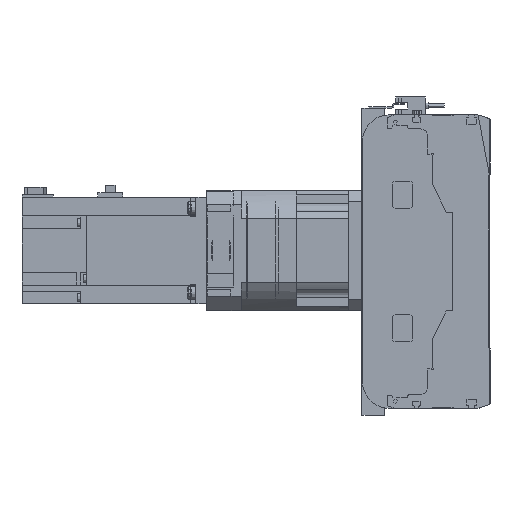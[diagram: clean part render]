
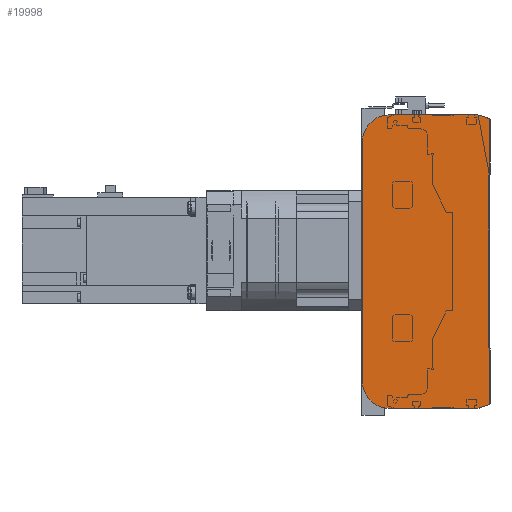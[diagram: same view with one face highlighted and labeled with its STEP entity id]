
A CAD part, left-side view. The second image highlights one B-rep face of the part: STEP entity #19998.
In plain terms, the highlighted planar face has unit normal (-1, 0, 0).
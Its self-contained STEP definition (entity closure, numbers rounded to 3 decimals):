
#1152=CIRCLE('',#21779,20.);
#1153=CIRCLE('',#21782,20.);
#4890=ORIENTED_EDGE('',*,*,#8648,.F.);
#4891=ORIENTED_EDGE('',*,*,#8690,.F.);
#4892=ORIENTED_EDGE('',*,*,#8688,.F.);
#4893=ORIENTED_EDGE('',*,*,#8686,.F.);
#4894=ORIENTED_EDGE('',*,*,#8675,.F.);
#4895=ORIENTED_EDGE('',*,*,#8666,.F.);
#4896=ORIENTED_EDGE('',*,*,#8662,.F.);
#4897=ORIENTED_EDGE('',*,*,#8659,.F.);
#8648=EDGE_CURVE('',#10871,#10872,#12667,.T.);
#8659=EDGE_CURVE('',#10872,#10879,#12678,.T.);
#8662=EDGE_CURVE('',#10879,#10881,#12681,.T.);
#8666=EDGE_CURVE('',#10881,#10882,#12685,.T.);
#8675=EDGE_CURVE('',#10882,#10888,#12694,.T.);
#8686=EDGE_CURVE('',#10888,#10895,#1152,.T.);
#8688=EDGE_CURVE('',#10895,#10896,#12706,.T.);
#8690=EDGE_CURVE('',#10896,#10871,#1153,.T.);
#10871=VERTEX_POINT('',#33225);
#10872=VERTEX_POINT('',#33227);
#10879=VERTEX_POINT('',#33246);
#10881=VERTEX_POINT('',#33252);
#10882=VERTEX_POINT('',#33258);
#10888=VERTEX_POINT('',#33274);
#10895=VERTEX_POINT('',#33293);
#10896=VERTEX_POINT('',#33297);
#12667=LINE('',#33226,#14266);
#12678=LINE('',#33245,#14277);
#12681=LINE('',#33251,#14280);
#12685=LINE('',#33257,#14284);
#12694=LINE('',#33273,#14293);
#12706=LINE('',#33296,#14305);
#14266=VECTOR('',#26318,1000.);
#14277=VECTOR('',#26331,1000.);
#14280=VECTOR('',#26336,1000.);
#14284=VECTOR('',#26342,1000.);
#14293=VECTOR('',#26353,1000.);
#14305=VECTOR('',#26371,1000.);
#15690=EDGE_LOOP('',(#4890,#4891,#4892,#4893,#4894,#4895,#4896,#4897));
#17658=FACE_BOUND('',#15690,.T.);
#19065=PLANE('',#21783);
#19998=ADVANCED_FACE('',(#17658),#19065,.F.);
#21779=AXIS2_PLACEMENT_3D('',#33292,#26366,#26367);
#21782=AXIS2_PLACEMENT_3D('',#33300,#26375,#26376);
#21783=AXIS2_PLACEMENT_3D('',#33301,#26377,#26378);
#26318=DIRECTION('',(0.,-1.,0.));
#26331=DIRECTION('',(0.,-0.945,-0.328));
#26336=DIRECTION('',(0.,0.,-1.));
#26342=DIRECTION('',(0.,0.945,-0.328));
#26353=DIRECTION('',(0.,1.,0.));
#26366=DIRECTION('',(1.,0.,0.));
#26367=DIRECTION('',(0.,0.,-1.));
#26371=DIRECTION('',(0.,0.,1.));
#26375=DIRECTION('',(1.,0.,0.));
#26376=DIRECTION('',(0.,0.,-1.));
#26377=DIRECTION('',(1.,0.,0.));
#26378=DIRECTION('',(0.,0.,-1.));
#33225=CARTESIAN_POINT('',(0.,75.5,110.));
#33226=CARTESIAN_POINT('',(0.,75.5,110.));
#33227=CARTESIAN_POINT('',(0.,9.,110.));
#33245=CARTESIAN_POINT('',(0.,9.,110.));
#33246=CARTESIAN_POINT('',(0.,0.5,107.05));
#33251=CARTESIAN_POINT('',(0.,0.5,107.05));
#33252=CARTESIAN_POINT('',(0.,0.5,-107.05));
#33257=CARTESIAN_POINT('',(0.,0.5,-107.05));
#33258=CARTESIAN_POINT('',(0.,9.,-110.));
#33273=CARTESIAN_POINT('',(0.,9.,-110.));
#33274=CARTESIAN_POINT('',(0.,75.5,-110.));
#33292=CARTESIAN_POINT('',(0.,75.5,-90.));
#33293=CARTESIAN_POINT('',(0.,95.5,-90.));
#33296=CARTESIAN_POINT('',(0.,95.5,-90.));
#33297=CARTESIAN_POINT('',(0.,95.5,90.));
#33300=CARTESIAN_POINT('',(0.,75.5,90.));
#33301=CARTESIAN_POINT('',(0.,75.5,-90.));
